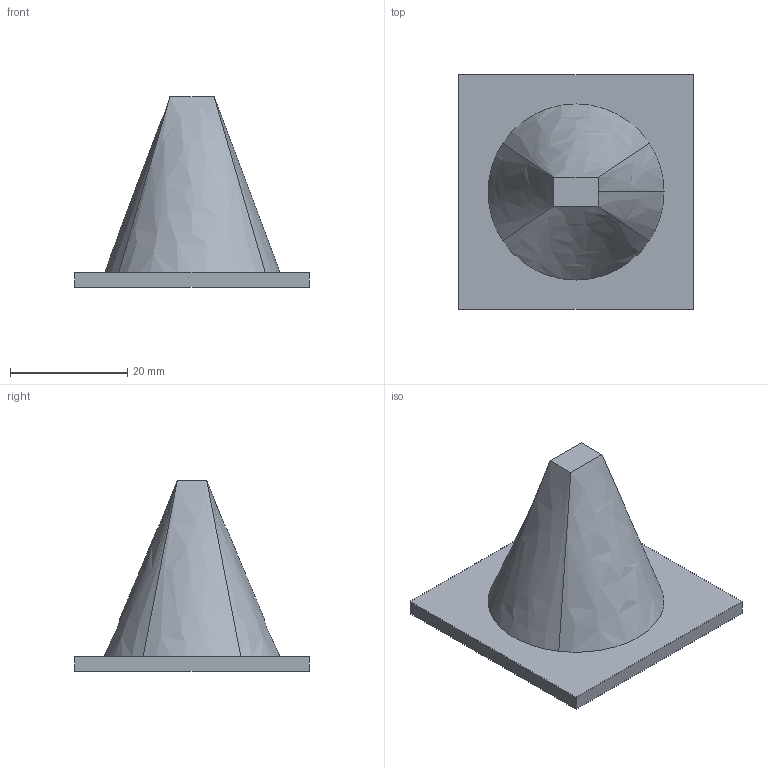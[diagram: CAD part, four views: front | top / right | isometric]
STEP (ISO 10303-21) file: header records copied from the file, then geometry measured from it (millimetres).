
FILE_DESCRIPTION(('Open CASCADE Model'),'2;1');
FILE_NAME('Open CASCADE Shape Model','2026-10-26T07:39:53',('Author'),( 'Open CASCADE'),'Open CASCADE STEP processor 7.9','Open CASCADE 7.9' ,'Unknown');
FILE_SCHEMA(('AUTOMOTIVE_DESIGN { 1 0 10303 214 1 1 1 1 }'));
Length unit declared in the file: millimetre
Products named in the file (1): Open CASCADE STEP translator 7.9 1
Bounding box: 40 x 40 x 32.5 mm (x, y, z)
Volume: 13103.6 mm3; surface area: 4817.4 mm2
Topology: 1 solids, 1 shells, 12 faces, 27 edges, 18 vertices
Faces by surface type: plane 7, bspline 5
Entity records: 747 total; most frequent: CARTESIAN_POINT 197, DIRECTION 92, LINE 61, VECTOR 61, ORIENTED_EDGE 54, PCURVE 54, DEFINITIONAL_REPRESENTATION 54, EDGE_CURVE 27
